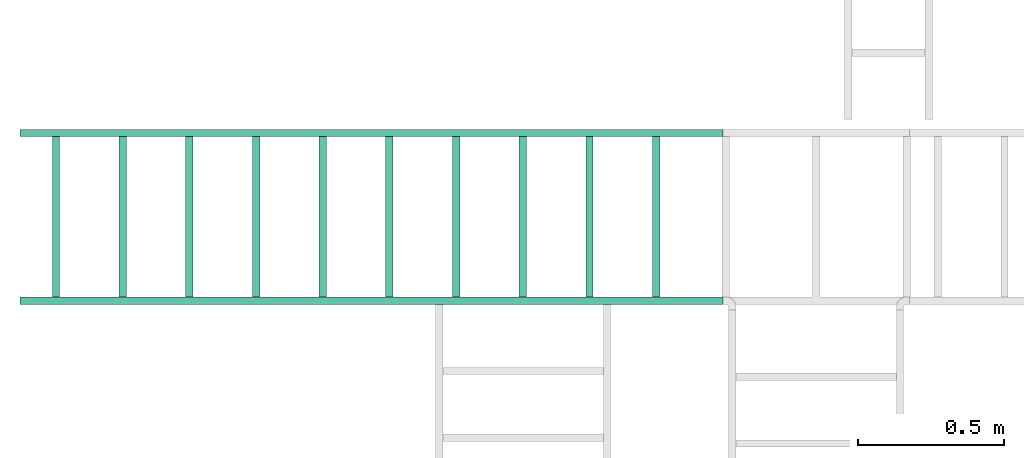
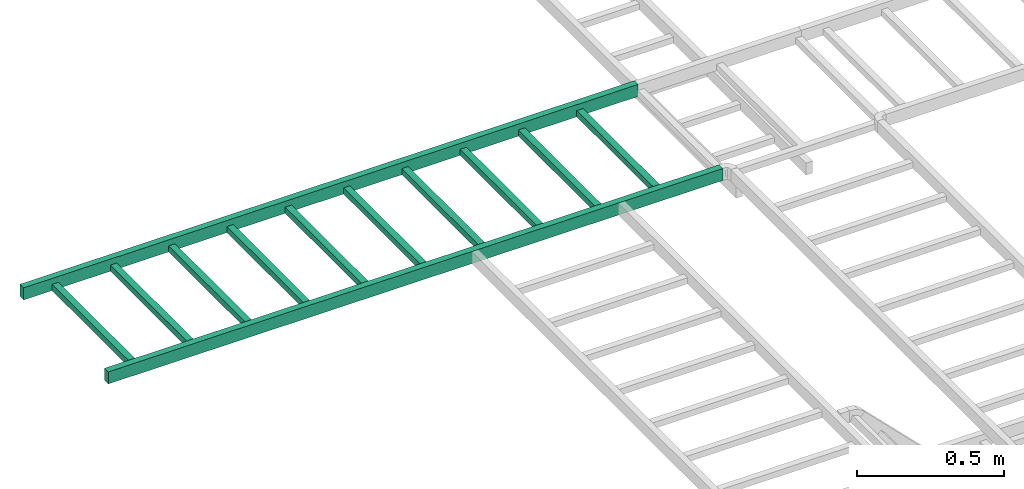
# One storey, part 5 of 6: 1 flow segment.
"""IFC2X3 building model written with IfcOpenShell, lengths in millimetres."""

from ifc_helpers import new_model, entity, si_unit, converted_unit, derived_unit, direction, frame, place, context, subcontext, project, spatial, faceted_brep, type_object, element, save


model = new_model("IFC2X3")

# Units and contexts
model_context = context("Model", 3, precision=0.01, world=frame((0.0, 4.29681676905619e-09, 0.0)), true_north=direction((4.01073788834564e-13, 1.0)))
plan_context = context("Plan", 3, precision=0.01, world=frame((0.0, 4.29681676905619e-09, 0.0)), true_north=direction((4.01073788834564e-13, 1.0)))
body_context = subcontext(model_context, "Body", "Model", "MODEL_VIEW")
ifc_project = project(units=[converted_unit("PLANEANGLEUNIT", "DEGREE", entity("IfcPositiveLengthMeasure", 0.0174532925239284), si_unit("PLANEANGLEUNIT", "RADIAN"), dimensions=[0, 0, 0, 0, 0, 0, 0]), si_unit("AREAUNIT", "SQUARE_METRE"), si_unit("LENGTHUNIT", "METRE", prefix="MILLI"), si_unit("MASSUNIT", "GRAM", prefix="KILO"), si_unit("POWERUNIT", "WATT"), si_unit("PRESSUREUNIT", "PASCAL", prefix="KILO"), si_unit("FORCEUNIT", "NEWTON", prefix="KILO"), si_unit("ELECTRICVOLTAGEUNIT", "VOLT"), si_unit("ELECTRICCURRENTUNIT", "AMPERE"), si_unit("THERMODYNAMICTEMPERATUREUNIT", "DEGREE_CELSIUS"), si_unit("TIMEUNIT", "SECOND"), si_unit("VOLUMEUNIT", "CUBIC_METRE"), derived_unit("LINEARVELOCITYUNIT", [(si_unit("LENGTHUNIT", "METRE"), 1), (si_unit("TIMEUNIT", "SECOND"), -1)]), derived_unit("VOLUMETRICFLOWRATEUNIT", [(si_unit("VOLUMEUNIT", "CUBIC_METRE"), 1), (si_unit("TIMEUNIT", "SECOND"), -1)]), derived_unit("THERMALTRANSMITTANCEUNIT", [(si_unit("POWERUNIT", "WATT"), 1), (si_unit("THERMODYNAMICTEMPERATUREUNIT", "KELVIN"), -1), (si_unit("AREAUNIT", "SQUARE_METRE"), -1)]), derived_unit("SOUNDPRESSUREUNIT", [(si_unit("PRESSUREUNIT", "PASCAL"), 1)])], contexts=[model_context, plan_context])

# Site, building, storey
site_placement = place(None, frame((0.0, -4.29681676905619e-09, 0.0), z_axis=(0.0, 0.0, 1.0), x_axis=(1.0, 0.0, 0.0)))
site = spatial("IfcSite", under=ifc_project, at=site_placement, Name="ENGM", CompositionType="ELEMENT")
building_placement = place(site_placement, frame((0.0, 4.29681676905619e-09, 0.0), z_axis=(0.0, 0.0, 1.0), x_axis=(1.0, 0.0, 0.0)))
building = spatial("IfcBuilding", under=site, at=building_placement, Name="TS", CompositionType="ELEMENT")
storey_placement = place(building_placement, frame((0.0, 0.0, 210900.0), z_axis=(0.0, 0.0, 1.0), x_axis=(1.0, 0.0, 0.0)))
storey = spatial("IfcBuildingStorey", under=building, at=storey_placement, Name="Nivå F", CompositionType="ELEMENT", Elevation=210900.0)

# Flow segment
cable_carrier_segment_type = type_object("IfcCableCarrierSegmentType", Name="Kabelbro", PredefinedType="CABLELADDERSEGMENT")
flow_segment_placement = place(storey_placement, frame((716847.4114, 442266.22699, 3925.0), z_axis=(0.0, 0.0, 1.0), x_axis=(-1.0, 0.0, 0.0)))
element("IfcFlowSegment", 1, at=flow_segment_placement, inside=storey, type_object=cable_carrier_segment_type, Name="Kabelbro", context=body_context, shape_type="Brep", body=[
    faceted_brep([(0.0, -300.0, 25.0), (0.0, -300.0, -25.0), (0.0, -274.60001, 25.0), (0.0, -274.60001, -25.0), (0.0, 274.60001, 25.0), (0.0, 274.60001, -25.0), (0.0, 300.0, 25.0), (0.0, 300.0, -25.0), (241.30001, -274.60001, -25.0), (215.89999, -274.60001, -25.0), (215.89999, -274.60001, 0.4), (241.30001, -274.60001, 0.4), (215.89999, 274.60001, 0.4), (215.89999, 274.60001, -25.0), (241.30001, 274.60001, -25.0), (241.30001, 274.60001, 0.4), (469.89999, -274.60001, -25.0), (444.50001, -274.60001, -25.0), (444.50001, -274.60001, 0.4), (469.89999, -274.60001, 0.4), (444.50001, 274.60001, 0.4), (444.50001, 274.60001, -25.0), (469.89999, 274.60001, -25.0), (469.89999, 274.60001, 0.4), (698.50002, -274.60001, -25.0), (673.09998, -274.60001, -25.0), (673.09998, -274.60001, 0.4), (698.50002, -274.60001, 0.4), (673.09998, 274.60001, 0.4), (673.09998, 274.60001, -25.0), (698.50002, 274.60001, -25.0), (698.50002, 274.60001, 0.4), (927.10002, -274.60001, -25.0), (901.69998, -274.60001, -25.0), (901.69998, -274.60001, 0.4), (927.10002, -274.60001, 0.4), (901.69998, 274.60001, 0.4), (901.69998, 274.60001, -25.0), (927.10002, 274.60001, -25.0), (927.10002, 274.60001, 0.4), (1155.70002, -274.60001, -25.0), (1130.29998, -274.60001, -25.0), (1130.29998, -274.60001, 0.4), (1155.70002, -274.60001, 0.4), (1130.29998, 274.60001, 0.4), (1130.29998, 274.60001, -25.0), (1155.70002, 274.60001, -25.0), (1155.70002, 274.60001, 0.4), (1384.29995, -274.60001, -25.0), (1358.90005, -274.60001, -25.0), (1358.90005, -274.60001, 0.4), (1384.29995, -274.60001, 0.4), (1358.90005, 274.60001, 0.4), (1358.90005, 274.60001, -25.0), (1384.29995, 274.60001, -25.0), (1384.29995, 274.60001, 0.4), (1612.89995, -274.60001, -25.0), (1587.50005, -274.60001, -25.0), (1587.50005, -274.60001, 0.4), (1612.89995, -274.60001, 0.4), (1587.50005, 274.60001, 0.4), (1587.50005, 274.60001, -25.0), (1612.89995, 274.60001, -25.0), (1612.89995, 274.60001, 0.4), (1841.49995, -274.60001, -25.0), (1816.10005, -274.60001, -25.0), (1816.10005, -274.60001, 0.4), (1841.49995, -274.60001, 0.4), (1816.10005, 274.60001, 0.4), (1816.10005, 274.60001, -25.0), (1841.49995, 274.60001, -25.0), (1841.49995, 274.60001, 0.4), (2070.09995, -274.60001, -25.0), (2044.70005, -274.60001, -25.0), (2044.70005, -274.60001, 0.4), (2070.09995, -274.60001, 0.4), (2044.70005, 274.60001, 0.4), (2044.70005, 274.60001, -25.0), (2070.09995, 274.60001, -25.0), (2070.09995, 274.60001, 0.4), (2298.69995, -274.60001, -25.0), (2273.30005, -274.60001, -25.0), (2273.30005, -274.60001, 0.4), (2298.69995, -274.60001, 0.4), (2273.30005, 274.60001, 0.4), (2273.30005, 274.60001, -25.0), (2298.69995, 274.60001, -25.0), (2298.69995, 274.60001, 0.4), (2409.42390000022, -300.0, 8.9365982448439), (2409.42390000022, -300.0, -25.0), (2409.42390000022, -300.0, 25.0), (2409.42390000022, -274.60001, 25.0), (2409.42390000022, -291.839795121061, 25.0), (2409.42390000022, -274.60001, -8.9365982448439), (2409.42390000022, -274.60001, -25.0), (2409.42390000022, -282.760214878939, -25.0), (2409.42390000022, 300.0, -8.9365982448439), (2409.42390000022, 300.0, 25.0), (2409.42390000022, 300.0, -25.0), (2409.42390000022, 274.60001, -25.0), (2409.42390000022, 291.839795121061, -25.0), (2409.42390000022, 274.60001, 8.9365982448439), (2409.42390000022, 274.60001, 25.0), (2409.42390000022, 282.760214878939, 25.0)], [[[0, 1, 2]], [[3, 2, 1]], [[4, 5, 6]], [[7, 6, 5]], [[8, 9, 10]], [[10, 11, 8]], [[12, 13, 14]], [[14, 15, 12]], [[15, 8, 11]], [[8, 15, 14]], [[13, 10, 9]], [[10, 13, 12]], [[16, 17, 18]], [[18, 19, 16]], [[20, 21, 22]], [[22, 23, 20]], [[23, 16, 19]], [[16, 23, 22]], [[21, 18, 17]], [[18, 21, 20]], [[24, 25, 26]], [[26, 27, 24]], [[28, 29, 30]], [[30, 31, 28]], [[31, 24, 27]], [[24, 31, 30]], [[29, 26, 25]], [[26, 29, 28]], [[32, 33, 34]], [[34, 35, 32]], [[36, 37, 38]], [[38, 39, 36]], [[39, 32, 35]], [[32, 39, 38]], [[37, 34, 33]], [[34, 37, 36]], [[40, 41, 42]], [[42, 43, 40]], [[44, 45, 46]], [[46, 47, 44]], [[47, 40, 43]], [[40, 47, 46]], [[45, 42, 41]], [[42, 45, 44]], [[48, 49, 50]], [[50, 51, 48]], [[52, 53, 54]], [[54, 55, 52]], [[55, 48, 51]], [[48, 55, 54]], [[53, 50, 49]], [[50, 53, 52]], [[56, 57, 58]], [[58, 59, 56]], [[60, 61, 62]], [[62, 63, 60]], [[63, 56, 59]], [[56, 63, 62]], [[61, 58, 57]], [[58, 61, 60]], [[64, 65, 66]], [[66, 67, 64]], [[68, 69, 70]], [[70, 71, 68]], [[71, 64, 67]], [[64, 71, 70]], [[69, 66, 65]], [[66, 69, 68]], [[72, 73, 74]], [[74, 75, 72]], [[76, 77, 78]], [[78, 79, 76]], [[79, 72, 75]], [[72, 79, 78]], [[77, 74, 73]], [[74, 77, 76]], [[80, 81, 82]], [[82, 83, 80]], [[84, 85, 86]], [[86, 87, 84]], [[87, 80, 83]], [[80, 87, 86]], [[85, 82, 81]], [[82, 85, 84]], [[15, 11, 10]], [[10, 12, 15]], [[23, 19, 18]], [[18, 20, 23]], [[31, 27, 26]], [[26, 28, 31]], [[39, 35, 34]], [[34, 36, 39]], [[13, 9, 8]], [[8, 14, 13]], [[21, 17, 16]], [[16, 22, 21]], [[29, 25, 24]], [[24, 30, 29]], [[37, 33, 32]], [[32, 38, 37]], [[45, 41, 40]], [[40, 46, 45]], [[53, 49, 48]], [[48, 54, 53]], [[61, 57, 56]], [[56, 62, 61]], [[69, 65, 64]], [[64, 70, 69]], [[77, 73, 72]], [[72, 78, 77]], [[85, 81, 80]], [[80, 86, 85]], [[47, 43, 42]], [[42, 44, 47]], [[55, 51, 50]], [[50, 52, 55]], [[63, 59, 58]], [[58, 60, 63]], [[71, 67, 66]], [[66, 68, 71]], [[79, 75, 74]], [[74, 76, 79]], [[87, 83, 82]], [[82, 84, 87]], [[88, 89, 1, 0]], [[90, 88, 0]], [[91, 92, 0, 2]], [[92, 90, 0]], [[93, 91, 2, 3]], [[94, 93, 3]], [[89, 95, 3, 1]], [[95, 94, 3]], [[96, 97, 6, 7]], [[98, 96, 7]], [[99, 100, 7, 5]], [[100, 98, 7]], [[101, 99, 5, 4]], [[102, 101, 4]], [[97, 103, 4, 6]], [[103, 102, 4]], [[90, 92, 91, 93, 94, 95, 89, 88]], [[98, 100, 99, 101, 102, 103, 97, 96]]], orient=[[False], [False], [False], [False], [False], [False], [False], [False], [False], [False], [False], [False], [False], [False], [False], [False], [False], [False], [False], [False], [False], [False], [False], [False], [False], [False], [False], [False], [False], [False], [False], [False], [False], [False], [False], [False], [False], [False], [False], [False], [False], [False], [False], [False], [False], [False], [False], [False], [False], [False], [False], [False], [False], [False], [False], [False], [False], [False], [False], [False], [False], [False], [False], [False], [False], [False], [False], [False], [False], [False], [False], [False], [False], [False], [False], [False], [False], [False], [False], [False], [False], [False], [False], [False], [False], [False], [False], [False], [False], [False], [False], [False], [False], [False], [False], [False], [False], [False], [False], [False], [False], [False], [False], [False], [False], [False], [False], [False], [False], [False], [False], [False], [False], [False], [False], [False], [False], [False], [False], [False], [False], [False], [False], [False], [False], [False], [False], [False], [False], [False], [False], [False], [False], [False], [False], [False], [False], [False], [False], [False], [False], [False]]),
])

save(model, "model.ifc")
